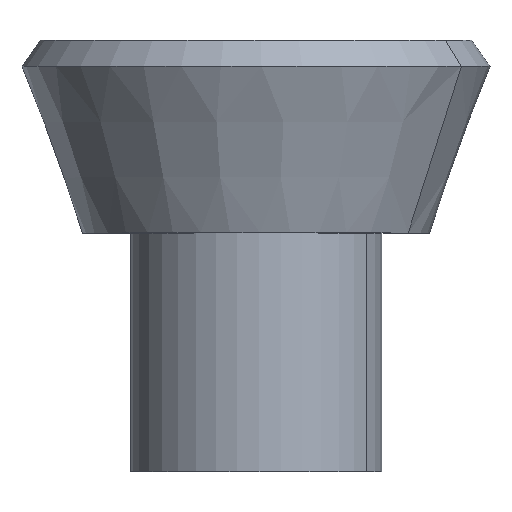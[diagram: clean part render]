
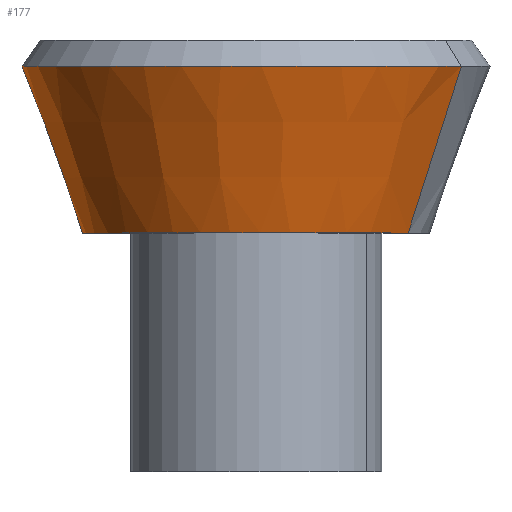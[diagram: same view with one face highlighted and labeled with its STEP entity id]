
A CAD part, top view. The second image highlights one B-rep face of the part: STEP entity #177.
In plain terms, the highlighted conical face has half-angle 20 degrees and reference radius 109 mm.
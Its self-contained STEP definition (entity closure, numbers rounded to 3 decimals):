
#114=CARTESIAN_POINT('Axis2P3D Location',(0.,0.,0.)) ;
#118=CARTESIAN_POINT('Vertex',(95.656,0.,52.257)) ;
#120=CARTESIAN_POINT('Vertex',(-95.656,0.,-52.257)) ;
#147=CARTESIAN_POINT('Axis2P3D Location',(0.,0.,0.)) ;
#152=CARTESIAN_POINT('Line Origine',(112.4,52.419,61.404)) ;
#156=CARTESIAN_POINT('Vertex',(129.143,104.837,70.551)) ;
#159=CARTESIAN_POINT('Axis2P3D Location',(0.,104.837,0.)) ;
#163=CARTESIAN_POINT('Vertex',(-129.143,104.837,-70.551)) ;
#166=CARTESIAN_POINT('Line Origine',(-112.4,52.419,-61.404)) ;
#115=DIRECTION('Axis2P3D Direction',(0.,-1.,0.)) ;
#148=DIRECTION('Axis2P3D Direction',(-0.,1.,-0.)) ;
#149=DIRECTION('Axis2P3D XDirection',(0.878,0.,0.479)) ;
#153=DIRECTION('Vector Direction',(0.3,0.94,0.164)) ;
#160=DIRECTION('Axis2P3D Direction',(0.,1.,-0.)) ;
#167=DIRECTION('Vector Direction',(-0.3,0.94,-0.164)) ;
#116=AXIS2_PLACEMENT_3D('Circle Axis2P3D',#114,#115,$) ;
#150=AXIS2_PLACEMENT_3D('Cone Axis2P3D',#147,#148,#149) ;
#161=AXIS2_PLACEMENT_3D('Circle Axis2P3D',#159,#160,$) ;
#172=ORIENTED_EDGE('',*,*,#122,.F.) ;
#173=ORIENTED_EDGE('',*,*,#158,.T.) ;
#174=ORIENTED_EDGE('',*,*,#165,.T.) ;
#175=ORIENTED_EDGE('',*,*,#170,.F.) ;
#154=VECTOR('Line Direction',#153,1.) ;
#168=VECTOR('Line Direction',#167,1.) ;
#177=ADVANCED_FACE('PartBody',(#176),#151,.T.) ;
#117=CIRCLE('generated circle',#116,109.) ;
#162=CIRCLE('generated circle',#161,147.158) ;
#151=CONICAL_SURFACE('Cone',#150,109.,0.349) ;
#122=EDGE_CURVE('',#119,#121,#117,.T.) ;
#158=EDGE_CURVE('',#119,#157,#155,.T.) ;
#165=EDGE_CURVE('',#157,#164,#162,.F.) ;
#170=EDGE_CURVE('',#121,#164,#169,.T.) ;
#171=EDGE_LOOP('',(#172,#173,#174,#175)) ;
#176=FACE_OUTER_BOUND('',#171,.T.) ;
#155=LINE('Line',#152,#154) ;
#169=LINE('Line',#166,#168) ;
#119=VERTEX_POINT('',#118) ;
#121=VERTEX_POINT('',#120) ;
#157=VERTEX_POINT('',#156) ;
#164=VERTEX_POINT('',#163) ;
